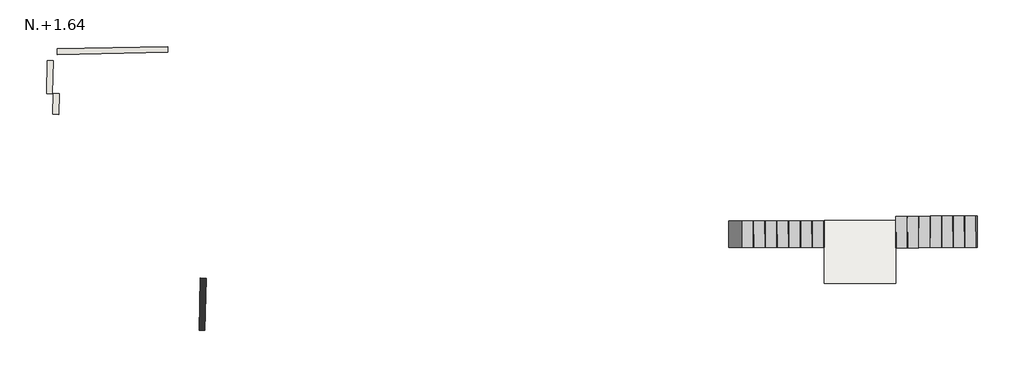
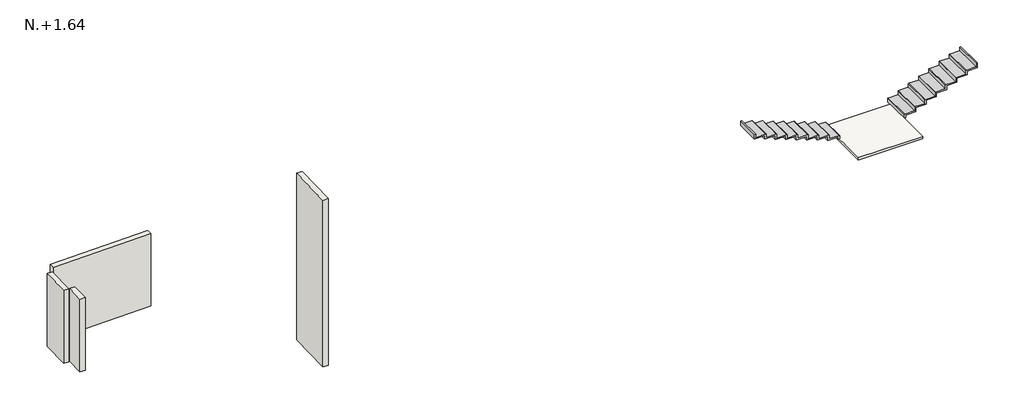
# One storey: 4 walls, 2 stair flights, 1 slab.
"""IFC4 building model written with IfcOpenShell, lengths in millimetres."""

from ifc_helpers import new_model, si_unit, frame, origin, place, context, project, spatial, polyline, outline, extrude, transform, mapped, element, save
from components import stair_flight_7dd1a809, stair_flight_b078fae6

model = new_model("IFC4")

# Units and contexts
model_context = context("Model", 3, world=origin())
ifc_project = project(units=[si_unit("LENGTHUNIT", "METRE", prefix="MILLI")], contexts=[model_context])

# Site, building, storey
site = spatial("IfcSite", under=ifc_project)
building = spatial("IfcBuilding", under=site)
storey = spatial("IfcBuildingStorey", under=building, Name="N.+1.64", Elevation=-1370.0)

# Slab
placement = place(None, origin())
element("IfcSlab", 1, ObjectType="PLACA BAÑOS", at=placement, inside=storey, context=model_context, shape_type="SweptSolid", body=[
    extrude(outline(polyline([(27555.8005701, 2792.0000466), (27555.8005701, 4985.365377), (30063.4756703, 4985.365377), (30063.4756703, 2792.0000466), (27555.8005701, 2792.0000466)])), frame((0.0, 0.0, -1470.0), z_axis=(0.0, 0.0, 1.0), x_axis=(1.0, 0.0, 0.0)), (0.0, 0.0, 1.0), 100.0),
])

# Stair flights
stair_flight_shape = stair_flight_7dd1a809(model_context)
element("IfcStairFlight", 2, ObjectType="Huella 50 mm Contrahuella 13 mm", at=placement, inside=storey, context=model_context, shape_type="MappedRepresentation", body=[
    mapped(stair_flight_shape, transform((0.0, 0.0, 0.0), x_axis=(1.0, 0.0, 0.0), y_axis=(0.0, 1.0, 0.0), z_axis=(0.0, 0.0, 1.0))),
])
stair_flight_2_shape = stair_flight_b078fae6(model_context)
element("IfcStairFlight", 3, ObjectType="Huella 50 mm Contrahuella 13 mm", at=placement, inside=storey, context=model_context, shape_type="MappedRepresentation", body=[
    mapped(stair_flight_2_shape, transform((0.0, 0.0, 0.0), x_axis=(1.0, 0.0, 0.0), y_axis=(0.0, 1.0, 0.0), z_axis=(0.0, 0.0, 1.0))),
])

# Walls
element("IfcWall", 4, ObjectType="Genérico - 200 mm", at=placement, inside=storey, context=model_context, shape_type="SweptSolid", body=[
    extrude(outline(polyline([(4663.7741202, 10867.8118008), (810.8114532, 10783.3524913), (806.4283832, 10983.3044573), (4659.3910502, 11067.7637668), (4663.7741202, 10867.8118008)])), frame((0.0, 0.0, -4370.0), z_axis=(0.0, 0.0, 1.0), x_axis=(1.0, 0.0, 0.0)), (0.0, 0.0, 1.0), 3000.0),
])
element("IfcWall", 5, ObjectType="Genérico - 200 mm", at=placement, inside=storey, context=model_context, shape_type="SweptSolid", body=[
    extrude(outline(polyline([(660.6978184, 10563.8889434), (632.3009133, 9412.664035), (432.3617301, 9417.5958723), (460.7586352, 10568.8207808), (660.6978184, 10563.8889434)])), frame((0.0, 0.0, -4370.0), z_axis=(0.0, 0.0, 1.0), x_axis=(1.0, 0.0, 0.0)), (0.0, 0.0, 1.0), 3000.0),
])
element("IfcWall", 6, ObjectType="Genérico - 200 mm", at=placement, inside=storey, context=model_context, shape_type="SweptSolid", body=[
    extrude(outline(polyline([(872.5377869, 9419.3074538), (854.6352011, 8693.5275634), (654.6960179, 8698.4594008), (672.5986037, 9424.2392912), (872.5377869, 9419.3074538)])), frame((0.0, 0.0, -4370.0), z_axis=(0.0, 0.0, 1.0), x_axis=(1.0, 0.0, 0.0)), (0.0, 0.0, 1.0), 3000.0),
])
element("IfcWall", 7, ObjectType="MURO ESCALERA", at=placement, inside=storey, context=model_context, shape_type="SweptSolid", body=[
    extrude(outline(polyline([(5757.4988614, 1160.1482844), (5802.1756194, 2979.5998469), (6002.1153515, 2974.6903131), (5957.4385935, 1155.2387506), (5757.4988614, 1160.1482844)])), frame((0.0, 0.0, -1370.0), z_axis=(0.0, 0.0, 1.0), x_axis=(1.0, 0.0, 0.0)), (0.0, 0.0, 1.0), 6860.0),
])

save(model, "model.ifc")
